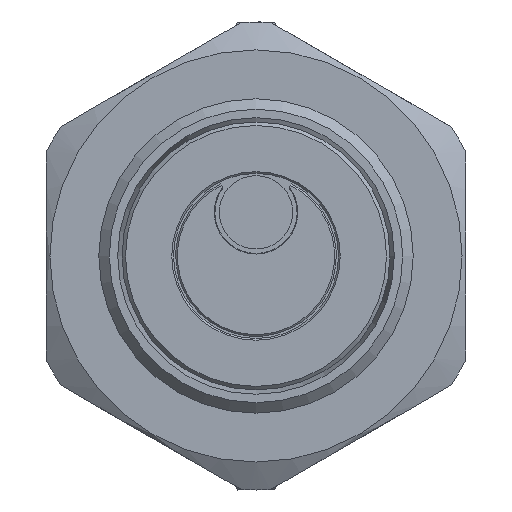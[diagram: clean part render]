
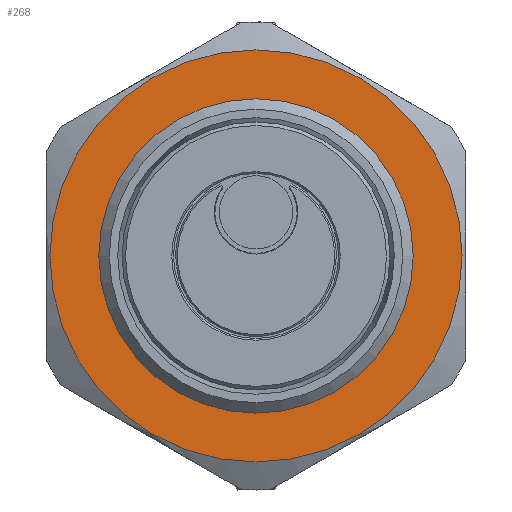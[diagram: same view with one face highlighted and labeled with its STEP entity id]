
A CAD part, left-side view. The second image highlights one B-rep face of the part: STEP entity #268.
In plain terms, the highlighted planar face has unit normal (-1, 0, 0) as drawn and (0, 1, 0) by its records, which use the part's own axes.
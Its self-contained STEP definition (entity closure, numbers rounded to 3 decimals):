
#268 = ADVANCED_FACE( '', ( #400, #401 ), #402, .T. );
#400 = FACE_BOUND( '', #493, .T. );
#401 = FACE_OUTER_BOUND( '', #494, .T. );
#402 = PLANE( '', #495 );
#493 = EDGE_LOOP( '', ( #687 ) );
#494 = EDGE_LOOP( '', ( #688 ) );
#495 = AXIS2_PLACEMENT_3D( '', #689, #690, #691 );
#687 = ORIENTED_EDGE( '', *, *, #857, .T. );
#688 = ORIENTED_EDGE( '', *, *, #831, .F. );
#689 = CARTESIAN_POINT( '', ( 0., 2., 0. ) );
#690 = DIRECTION( '', ( 0., 1., 0. ) );
#691 = DIRECTION( '', ( 0., 0., 1. ) );
#831 = EDGE_CURVE( '', #948, #948, #949, .T. );
#857 = EDGE_CURVE( '', #988, #988, #989, .F. );
#948 = VERTEX_POINT( '', #1078 );
#949 = CIRCLE( '', #1079, 11.8 );
#988 = VERTEX_POINT( '', #1234 );
#989 = CIRCLE( '', #1235, 8.959 );
#1078 = CARTESIAN_POINT( '', ( 0., 2., -11.8 ) );
#1079 = AXIS2_PLACEMENT_3D( '', #1316, #1317, #1318 );
#1234 = CARTESIAN_POINT( '', ( 0., 2., 8.959 ) );
#1235 = AXIS2_PLACEMENT_3D( '', #1352, #1353, #1354 );
#1316 = CARTESIAN_POINT( '', ( 0., 2., 0. ) );
#1317 = DIRECTION( '', ( 0., -1., 0. ) );
#1318 = DIRECTION( '', ( 0., 0., -1. ) );
#1352 = CARTESIAN_POINT( '', ( 0., 2., 0. ) );
#1353 = DIRECTION( '', ( 0., 1., 0. ) );
#1354 = DIRECTION( '', ( 0., 0., 1. ) );
